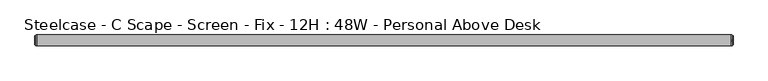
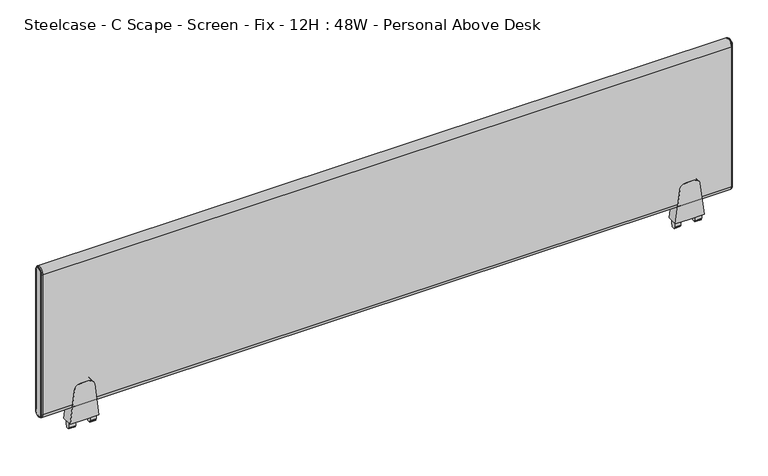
"""IFC4 building model written with IfcOpenShell, lengths in millimetres: furniture geometry, Steelcase - C Scape - Screen - Fix - 12H : 48W - Personal Above Desk."""

from ifc_helpers import new_model, si_unit, point, frame, frame_2d, origin, place, context, project, spatial, polyline, circle_curve, ellipse_curve, trimmed, segment, composite_curve, outline, extrude, source, transform, mapped, element, save
from ifc_brep_helpers import plane_surface, cylinder_surface, revolved_surface, advanced_brep


def steelcase_c_scape_screen_fix_12h_48w_personal_above_desk_ef8bbe0f(model_context):
    return source(origin(), model_context, "Body", "SolidModel", [
        extrude(outline(composite_curve([segment(polyline([(729.653112, 101.4730434), (789.9782421, 94.0661495)]), True, "CONTINUOUS"), segment(trimmed(circle_curve(frame_2d((788.6563718, 83.300233)), 10.8467645), [point((789.9782421, 94.0661495))], [point((799.5031362, 83.300233))], False, "CARTESIAN"), True, "CONTINUOUS"), segment(polyline([(799.5031362, 83.300233), (799.5031362, 76.2001674), (799.5031362, 69.1001018)]), True, "CONTINUOUS"), segment(trimmed(circle_curve(frame_2d((788.6563718, 69.1001018)), 10.8467645), [point((799.5031362, 69.1001018))], [point((789.9782421, 58.3341853))], False, "CARTESIAN"), True, "CONTINUOUS"), segment(polyline([(789.9782421, 58.3341853), (729.653112, 50.9272915), (729.653112, 76.2001674), (729.653112, 101.4730434)]), True, "CONTINUOUS")], self_intersect=False)), frame((0.0, -9.525, 0.0), z_axis=(0.0, 1.0, 0.0), x_axis=(0.0, 0.0, 1.0)), (0.0, 0.0, 1.0), 19.05),
        extrude(outline(polyline([(4.5465975, 729.653112), (4.5465975, 719.7471033), (4.0139265, 718.8606748), (2.9972008, 718.8606748), (2.9972008, 716.6254188), (0.0, 716.534), (-2.9972008, 716.6254188), (-2.9972008, 718.8606748), (-4.0139265, 718.8606748), (-4.5465975, 719.7471033), (-4.5465975, 729.653112), (0.0, 729.653112), (4.5465975, 729.653112)])), frame((88.9267162, 0.0, 0.0), z_axis=(1.0, 0.0, 0.0), x_axis=(0.0, 1.0, 0.0)), (0.0, 0.0, 1.0), 10.7813187),
        extrude(outline(polyline([(4.5465975, 729.653112), (4.5465975, 719.7471033), (4.0139265, 718.8606748), (2.9972008, 718.8606748), (2.9972008, 716.6254188), (0.0, 716.534), (-2.9972008, 716.6254188), (-2.9972008, 718.8606748), (-4.0139265, 718.8606748), (-4.5465975, 719.7471033), (-4.5465975, 729.653112), (0.0, 729.653112), (4.5465975, 729.653112)])), frame((52.6923, 0.0, 0.0), z_axis=(1.0, 0.0, 0.0), x_axis=(0.0, 1.0, 0.0)), (0.0, 0.0, 1.0), 10.7813187),
        extrude(outline(composite_curve([segment(polyline([(729.653112, 1167.5107132), (789.9782421, 1160.1038193)]), True, "CONTINUOUS"), segment(trimmed(circle_curve(frame_2d((788.6563718, 1149.3379028)), 10.8467645), [point((789.9782421, 1160.1038193))], [point((799.5031362, 1149.3379028))], False, "CARTESIAN"), True, "CONTINUOUS"), segment(polyline([(799.5031362, 1149.3379028), (799.5031362, 1142.2378372), (799.5031362, 1135.1377716)]), True, "CONTINUOUS"), segment(trimmed(circle_curve(frame_2d((788.6563718, 1135.1377716)), 10.8467645), [point((799.5031362, 1135.1377716))], [point((789.9782421, 1124.3718551))], False, "CARTESIAN"), True, "CONTINUOUS"), segment(polyline([(789.9782421, 1124.3718551), (729.653112, 1116.9649612), (729.653112, 1142.2378372), (729.653112, 1167.5107132)]), True, "CONTINUOUS")], self_intersect=False)), frame((0.0, -9.525, 0.0), z_axis=(0.0, 1.0, 0.0), x_axis=(0.0, 0.0, 1.0)), (0.0, 0.0, 1.0), 19.05),
        extrude(outline(polyline([(4.5465975, 729.653112), (4.5465975, 719.7471033), (4.0139265, 718.8606748), (2.9972008, 718.8606748), (2.9972008, 716.6254188), (0.0, 716.534), (-2.9972008, 716.6254188), (-2.9972008, 718.8606748), (-4.0139265, 718.8606748), (-4.5465975, 719.7471033), (-4.5465975, 729.653112), (0.0, 729.653112), (4.5465975, 729.653112)])), frame((1154.964386, 0.0, 0.0), z_axis=(1.0, 0.0, 0.0), x_axis=(0.0, 1.0, 0.0)), (0.0, 0.0, 1.0), 10.7813187),
        extrude(outline(polyline([(4.5465975, 729.653112), (4.5465975, 719.7471033), (4.0139265, 718.8606748), (2.9972008, 718.8606748), (2.9972008, 716.6254188), (0.0, 716.534), (-2.9972008, 716.6254188), (-2.9972008, 718.8606748), (-4.0139265, 718.8606748), (-4.5465975, 719.7471033), (-4.5465975, 729.653112), (0.0, 729.653112), (4.5465975, 729.653112)])), frame((1118.7299698, 0.0, 0.0), z_axis=(1.0, 0.0, 0.0), x_axis=(0.0, 1.0, 0.0)), (0.0, 0.0, 1.0), 10.7813187),
        advanced_brep(
        [(1215.6486613, -9.525, 1025.017), (1215.6486613, 9.525, 1025.017), (1215.6486613, 9.525, 764.667), (1215.6486613, -9.525, 764.667), (1218.4426613, 7.4929583, 1025.017), (1218.4426613, -7.4929583, 1025.017), (1218.4426613, -7.4929583, 764.667), (1218.4426613, 7.4929583, 764.667), (1217.9346545, -8.0009651, 1025.017), (1217.9346545, 8.0009651, 1025.017), (1216.6646613, 8.0009651, 1025.017), (1216.6646613, -8.0009651, 1025.017), (1216.6646613, -8.8204932, 1025.017), (1216.6646613, 8.8204932, 1025.017), (1216.6646613, -8.0009651, 764.667), (1217.9346545, -8.0009651, 764.667), (1216.6646613, -8.8204932, 764.667), (1216.6646613, 8.0009651, 764.667), (1217.9346545, 8.0009651, 764.667), (1216.6646613, 8.8204932, 764.667)],
        [
            (0, 1, circle_curve(frame((1215.6486613, 0.0, 1025.017), z_axis=(-1.0, 0.0, 0.0), x_axis=(0.0, 1.0, 0.0)), 9.525)),
            (1, 2),
            (2, 3, circle_curve(frame((1215.6486613, 0.0, 764.667), z_axis=(-1.0, 0.0, 0.0), x_axis=(0.0, -1.0, 0.0)), 9.525)),
            (3, 0),
            (4, 5, circle_curve(frame((1218.4426613, 0.0, 1025.017), z_axis=(1.0, 0.0, 0.0), x_axis=(0.0, 1.0, 0.0)), 7.4929583)),
            (5, 6),
            (6, 7, circle_curve(frame((1218.4426613, 0.0, 764.667), z_axis=(1.0, 0.0, 0.0), x_axis=(0.0, -1.0, 0.0)), 7.4929583)),
            (7, 4),
            (8, 9, circle_curve(frame((1217.9346545, 0.0, 1025.017), z_axis=(-1.0, 0.0, 0.0), x_axis=(0.0, 1.0, 0.0)), 8.0009651)),
            (9, 10),
            (10, 11, circle_curve(frame((1216.6646613, 0.0, 1025.017), z_axis=(1.0, 0.0, 0.0), x_axis=(0.0, 1.0, 0.0)), 8.0009651)),
            (11, 8),
            (8, 5, circle_curve(frame((1217.9346545, -7.4929583, 1025.017), z_axis=(0.0, 0.0, 1.0), x_axis=(0.0, -1.0, 0.0)), 0.5080068)),
            (4, 9, circle_curve(frame((1217.9346545, 7.4929583, 1025.017), z_axis=(0.0, 0.0, 1.0), x_axis=(0.0, 1.0, 0.0)), 0.5080068)),
            (12, 13, circle_curve(frame((1216.6646613, 0.0, 1025.017), z_axis=(-1.0, 0.0, 0.0), x_axis=(0.0, 1.0, 0.0)), 8.8204932)),
            (13, 1, circle_curve(frame((1215.5806211, 8.3420139, 1025.017), z_axis=(0.0, 0.0, 1.0), x_axis=(0.0, 1.0, 0.0)), 1.1849411)),
            (0, 12, circle_curve(frame((1215.5806211, -8.3420139, 1025.017), z_axis=(0.0, 0.0, 1.0), x_axis=(0.0, -1.0, 0.0)), 1.1849411)),
            (11, 14),
            (14, 15),
            (15, 8),
            (15, 6, circle_curve(frame((1217.9346545, -7.4929583, 764.667), z_axis=(0.0, 0.0, 1.0), x_axis=(0.0, -1.0, 0.0)), 0.5080068)),
            (3, 16, circle_curve(frame((1215.5806211, -8.3420139, 764.667), z_axis=(0.0, 0.0, 1.0), x_axis=(0.0, -1.0, 0.0)), 1.1849411)),
            (16, 12),
            (14, 17, circle_curve(frame((1216.6646613, 0.0, 764.667), z_axis=(1.0, 0.0, 0.0), x_axis=(0.0, -1.0, 0.0)), 8.0009651)),
            (17, 18),
            (18, 15, circle_curve(frame((1217.9346545, 0.0, 764.667), z_axis=(-1.0, 0.0, 0.0), x_axis=(0.0, -1.0, 0.0)), 8.0009651)),
            (18, 7, circle_curve(frame((1217.9346545, 7.4929583, 764.667), z_axis=(0.0, 0.0, -1.0), x_axis=(0.0, 1.0, 0.0)), 0.5080068)),
            (2, 19, circle_curve(frame((1215.5806211, 8.3420139, 764.667), z_axis=(0.0, 0.0, -1.0), x_axis=(0.0, 1.0, 0.0)), 1.1849411)),
            (19, 16, circle_curve(frame((1216.6646613, 0.0, 764.667), z_axis=(-1.0, 0.0, 0.0), x_axis=(0.0, -1.0, 0.0)), 8.8204932)),
            (9, 18),
            (17, 10),
            (13, 19),
        ],
        [
            plane_surface(frame((1215.6486613, -6.3509705, 1025.017), z_axis=(-1.0, 0.0, 0.0), x_axis=(0.0, 0.0, 1.0))),
            plane_surface(frame((1218.4426613, -6.3509705, 1025.017), z_axis=(1.0, 0.0, 0.0), x_axis=(0.0, 0.0, -1.0))),
            cylinder_surface(frame((1215.6486613, 0.0, 1025.017), z_axis=(1.0, 0.0, 0.0), x_axis=(0.0, 1.0, 0.0)), 8.0009651),
            revolved_surface(trimmed(ellipse_curve(frame((1217.9346545, 7.4929583, 1025.017), z_axis=(0.0, 0.0, -1.0), x_axis=(0.0, 1.0, 0.0)), 0.5080068, 0.5080068), [point((1217.9346545, 8.0009651, 1025.017))], [point((1218.4426613, 7.4929583, 1025.017))], True, "CARTESIAN"), (1215.6486613, 0.0, 1025.017), (1.0, 0.0, 0.0)),
            revolved_surface(trimmed(ellipse_curve(frame((1215.5806211, 8.3420139, 1025.017), z_axis=(0.0, 0.0, -1.0), x_axis=(0.0, 1.0, 0.0)), 1.1849411, 1.1849411), [point((1215.6486613, 9.525, 1025.017))], [point((1216.6646613, 8.8204932, 1025.017))], True, "CARTESIAN"), (1215.6486613, 0.0, 1025.017), (1.0, 0.0, 0.0)),
            plane_surface(frame((1216.6646613, -8.0009651, 1025.017), z_axis=(0.0, -1.0, 0.0), x_axis=(0.0, 0.0, -1.0))),
            cylinder_surface(frame((1217.9346545, -7.4929583, 1025.017), z_axis=(0.0, 0.0, 1.0), x_axis=(0.0, -1.0, 0.0)), 0.5080068),
            cylinder_surface(frame((1215.5806211, -8.3420139, 1025.017), z_axis=(0.0, 0.0, 1.0), x_axis=(0.0, -1.0, 0.0)), 1.1849411),
            cylinder_surface(frame((1215.6486613, 0.0, 764.667), z_axis=(1.0, 0.0, 0.0), x_axis=(0.0, -1.0, 0.0)), 8.0009651),
            revolved_surface(trimmed(ellipse_curve(frame((1217.9346545, -7.4929583, 764.667), z_axis=(0.0, 0.0, 1.0), x_axis=(0.0, -1.0, 0.0)), 0.5080068, 0.5080068), [point((1217.9346545, -8.0009651, 764.667))], [point((1218.4426613, -7.4929583, 764.667))], True, "CARTESIAN"), (1215.6486613, 0.0, 764.667), (1.0, 0.0, 0.0)),
            revolved_surface(trimmed(ellipse_curve(frame((1215.5806211, -8.3420139, 764.667), z_axis=(0.0, 0.0, 1.0), x_axis=(0.0, -1.0, 0.0)), 1.1849411, 1.1849411), [point((1215.6486613, -9.525, 764.667))], [point((1216.6646613, -8.8204932, 764.667))], True, "CARTESIAN"), (1215.6486613, 0.0, 764.667), (1.0, 0.0, 0.0)),
            plane_surface(frame((1216.6646613, 8.0009651, 764.667), z_axis=(0.0, 1.0, 0.0), x_axis=(0.0, 0.0, 1.0))),
            cylinder_surface(frame((1217.9346545, 7.4929583, 764.667), z_axis=(0.0, 0.0, -1.0), x_axis=(0.0, 1.0, 0.0)), 0.5080068),
            cylinder_surface(frame((1215.5806211, 8.3420139, 764.667), z_axis=(0.0, 0.0, -1.0), x_axis=(0.0, 1.0, 0.0)), 1.1849411),
            plane_surface(frame((1216.6646613, 8.8204932, 764.667), z_axis=(1.0, 0.0, 0.0), x_axis=(0.0, 0.0, 1.0))),
        ],
        [
            (0, [[1, 2, 3, 4]]),
            (1, [[5, 6, 7, 8]]),
            (2, [[9, 10, 11, 12]]),
            (3, [[-9, 13, -5, 14]]),
            (4, [[15, 16, -1, 17]]),
            (5, [[-12, 18, 19, 20]]),
            (6, [[-13, -20, 21, -6]]),
            (7, [[-17, -4, 22, 23]]),
            (8, [[-19, 24, 25, 26]]),
            (9, [[-21, -26, 27, -7]]),
            (10, [[-22, -3, 28, 29]]),
            (11, [[-10, 30, -25, 31]]),
            (12, [[-14, -8, -27, -30]]),
            (13, [[-16, 32, -28, -2]]),
            (14, [[-15, -23, -29, -32], [-11, -31, -24, -18]]),
        ],
    ),
        advanced_brep(
        [(2.7940155, 9.525, 1025.017), (2.7940155, -9.525, 1025.017), (2.7940155, -9.525, 764.667), (2.7940155, 9.525, 764.667), (0.0, -7.4929583, 1025.017), (0.0, 7.4929583, 1025.017), (0.0, 7.4929583, 764.667), (0.0, -7.4929583, 764.667), (1.778, 8.8204932, 1025.017), (1.778, -8.8204932, 1025.017), (0.5080068, -8.0009651, 1025.017), (0.5080068, 8.0009651, 1025.017), (1.778, -8.0009651, 1025.017), (1.778, 8.0009651, 1025.017), (1.778, -8.8204932, 764.667), (0.5080068, -8.0009651, 764.667), (1.778, -8.0009651, 764.667), (1.778, 8.8204932, 764.667), (0.5080068, 8.0009651, 764.667), (1.778, 8.0009651, 764.667)],
        [
            (0, 1, circle_curve(frame((2.7940155, 0.0, 1025.017), z_axis=(1.0, 0.0, 0.0), x_axis=(0.0, 1.0, 0.0)), 9.525)),
            (1, 2),
            (2, 3, circle_curve(frame((2.7940155, 0.0, 764.667), z_axis=(1.0, 0.0, 0.0), x_axis=(0.0, -1.0, 0.0)), 9.525)),
            (3, 0),
            (4, 5, circle_curve(frame((0.0, 0.0, 1025.017), z_axis=(-1.0, 0.0, 0.0), x_axis=(0.0, 1.0, 0.0)), 7.4929583)),
            (5, 6),
            (6, 7, circle_curve(frame((0.0, 0.0, 764.667), z_axis=(-1.0, 0.0, 0.0), x_axis=(0.0, -1.0, 0.0)), 7.4929583)),
            (7, 4),
            (0, 8, circle_curve(frame((2.8620402, 8.3420139, 1025.017), z_axis=(0.0, 0.0, 1.0), x_axis=(0.0, -1.0, 0.0)), 1.1849411)),
            (8, 9, circle_curve(frame((1.778, 0.0, 1025.017), z_axis=(1.0, 0.0, 0.0), x_axis=(0.0, 1.0, 0.0)), 8.8204932)),
            (9, 1, circle_curve(frame((2.8620402, -8.3420139, 1025.017), z_axis=(0.0, 0.0, 1.0), x_axis=(0.0, 1.0, 0.0)), 1.1849411)),
            (10, 11, circle_curve(frame((0.5080068, 0.0, 1025.017), z_axis=(-1.0, 0.0, 0.0), x_axis=(0.0, 1.0, 0.0)), 8.0009651)),
            (11, 5, circle_curve(frame((0.5080068, 7.4929583, 1025.017), z_axis=(0.0, 0.0, 1.0), x_axis=(0.0, -1.0, 0.0)), 0.5080068)),
            (4, 10, circle_curve(frame((0.5080068, -7.4929583, 1025.017), z_axis=(0.0, 0.0, 1.0), x_axis=(0.0, 1.0, 0.0)), 0.5080068)),
            (10, 12),
            (12, 13, circle_curve(frame((1.778, 0.0, 1025.017), z_axis=(-1.0, 0.0, 0.0), x_axis=(0.0, 1.0, 0.0)), 8.0009651)),
            (13, 11),
            (9, 14),
            (14, 2, circle_curve(frame((2.8620402, -8.3420139, 764.667), z_axis=(0.0, 0.0, 1.0), x_axis=(0.0, 1.0, 0.0)), 1.1849411)),
            (7, 15, circle_curve(frame((0.5080068, -7.4929583, 764.667), z_axis=(0.0, 0.0, 1.0), x_axis=(0.0, 1.0, 0.0)), 0.5080068)),
            (15, 10),
            (15, 16),
            (16, 12),
            (14, 17, circle_curve(frame((1.778, 0.0, 764.667), z_axis=(1.0, 0.0, 0.0), x_axis=(0.0, -1.0, 0.0)), 8.8204932)),
            (17, 3, circle_curve(frame((2.8620402, 8.3420139, 764.667), z_axis=(0.0, 0.0, -1.0), x_axis=(0.0, -1.0, 0.0)), 1.1849411)),
            (6, 18, circle_curve(frame((0.5080068, 7.4929583, 764.667), z_axis=(0.0, 0.0, -1.0), x_axis=(0.0, -1.0, 0.0)), 0.5080068)),
            (18, 15, circle_curve(frame((0.5080068, 0.0, 764.667), z_axis=(-1.0, 0.0, 0.0), x_axis=(0.0, -1.0, 0.0)), 8.0009651)),
            (18, 19),
            (19, 16, circle_curve(frame((1.778, 0.0, 764.667), z_axis=(-1.0, 0.0, 0.0), x_axis=(0.0, -1.0, 0.0)), 8.0009651)),
            (8, 17),
            (19, 13),
            (11, 18),
        ],
        [
            plane_surface(frame((2.7940155, -6.3509705, 1025.017), z_axis=(1.0, 0.0, 0.0), x_axis=(0.0, 0.0, -1.0))),
            plane_surface(frame((0.0, -6.3509705, 1025.017), z_axis=(-1.0, 0.0, 0.0), x_axis=(0.0, 0.0, 1.0))),
            revolved_surface(trimmed(ellipse_curve(frame((2.8620402, 8.3420139, 1025.017), z_axis=(0.0, 0.0, -1.0), x_axis=(0.0, -1.0, 0.0)), 1.1849411, 1.1849411), [point((1.778, 8.8204932, 1025.017))], [point((2.794, 9.525, 1025.017))], True, "CARTESIAN"), (2.794, 0.0, 1025.017), (1.0, 0.0, 0.0)),
            revolved_surface(trimmed(ellipse_curve(frame((0.5080068, 7.4929583, 1025.017), z_axis=(0.0, 0.0, -1.0), x_axis=(0.0, -1.0, 0.0)), 0.5080068, 0.5080068), [point((0.0, 7.4929583, 1025.017))], [point((0.5080068, 8.0009651, 1025.017))], True, "CARTESIAN"), (2.794, 0.0, 1025.017), (1.0, 0.0, 0.0)),
            cylinder_surface(frame((2.794, 0.0, 1025.017), z_axis=(1.0, 0.0, 0.0), x_axis=(0.0, 1.0, 0.0)), 8.0009651),
            cylinder_surface(frame((2.8620402, -8.3420139, 1025.017), z_axis=(0.0, 0.0, 1.0), x_axis=(0.0, 1.0, 0.0)), 1.1849411),
            cylinder_surface(frame((0.5080068, -7.4929583, 1025.017), z_axis=(0.0, 0.0, 1.0), x_axis=(0.0, 1.0, 0.0)), 0.5080068),
            plane_surface(frame((0.5080068, -8.0009651, 1025.017), z_axis=(0.0, -1.0, 0.0), x_axis=(0.0, 0.0, -1.0))),
            revolved_surface(trimmed(ellipse_curve(frame((2.8620402, -8.3420139, 764.667), z_axis=(0.0, 0.0, 1.0), x_axis=(0.0, 1.0, 0.0)), 1.1849411, 1.1849411), [point((1.778, -8.8204932, 764.667))], [point((2.794, -9.525, 764.667))], True, "CARTESIAN"), (2.794, 0.0, 764.667), (1.0, 0.0, 0.0)),
            revolved_surface(trimmed(ellipse_curve(frame((0.5080068, -7.4929583, 764.667), z_axis=(0.0, 0.0, 1.0), x_axis=(0.0, 1.0, 0.0)), 0.5080068, 0.5080068), [point((0.0, -7.4929583, 764.667))], [point((0.5080068, -8.0009651, 764.667))], True, "CARTESIAN"), (2.794, 0.0, 764.667), (1.0, 0.0, 0.0)),
            cylinder_surface(frame((2.794, 0.0, 764.667), z_axis=(1.0, 0.0, 0.0), x_axis=(0.0, -1.0, 0.0)), 8.0009651),
            plane_surface(frame((1.778, 8.0009651, 764.667), z_axis=(-1.0, 0.0, 0.0), x_axis=(0.0, 0.0, 1.0))),
            cylinder_surface(frame((2.8620402, 8.3420139, 764.667), z_axis=(0.0, 0.0, -1.0), x_axis=(0.0, -1.0, 0.0)), 1.1849411),
            cylinder_surface(frame((0.5080068, 7.4929583, 764.667), z_axis=(0.0, 0.0, -1.0), x_axis=(0.0, -1.0, 0.0)), 0.5080068),
            plane_surface(frame((0.5080068, 8.0009651, 764.667), z_axis=(0.0, 1.0, 0.0), x_axis=(0.0, 0.0, 1.0))),
        ],
        [
            (0, [[1, 2, 3, 4]]),
            (1, [[5, 6, 7, 8]]),
            (2, [[-1, 9, 10, 11]]),
            (3, [[12, 13, -5, 14]]),
            (4, [[-12, 15, 16, 17]]),
            (5, [[-11, 18, 19, -2]]),
            (6, [[-14, -8, 20, 21]]),
            (7, [[-15, -21, 22, 23]]),
            (8, [[-19, 24, 25, -3]]),
            (9, [[-20, -7, 26, 27]]),
            (10, [[-22, -27, 28, 29]]),
            (11, [[-10, 30, -24, -18], [-16, -23, -29, 31]]),
            (12, [[-9, -4, -25, -30]]),
            (13, [[-13, 32, -26, -6]]),
            (14, [[-17, -31, -28, -32]]),
        ],
    ),
        extrude(outline(composite_curve([segment(trimmed(circle_curve(frame_2d((0.0, 1025.017)), 9.525), [point((-9.525, 1025.017))], [point((9.525, 1025.017))], False, "CARTESIAN"), True, "CONTINUOUS"), segment(polyline([(9.525, 1025.017), (9.525, 764.667)]), True, "CONTINUOUS"), segment(trimmed(circle_curve(frame_2d((0.0, 764.667)), 9.525), [point((9.525, 764.667))], [point((-9.525, 764.667))], False, "CARTESIAN"), True, "CONTINUOUS"), segment(polyline([(-9.525, 764.667), (-9.525, 1025.017)]), True, "CONTINUOUS")], self_intersect=False)), frame((2.794, 0.0, 0.0), z_axis=(1.0, 0.0, 0.0), x_axis=(0.0, 1.0, 0.0)), (0.0, 0.0, 1.0), 1212.8546613),
    ])


if __name__ == "__main__":
    model = new_model("IFC4")
    model_context = context("Model", 3, world=origin())
    ifc_project = project(units=[si_unit("LENGTHUNIT", "METRE", prefix="MILLI")], contexts=[model_context])
    site = spatial("IfcSite", under=ifc_project)
    building = spatial("IfcBuilding", under=site)
    placement = place(None, origin())
    steelcase_c_scape_screen_fix_12h_48w_personal_above_desk_shape = steelcase_c_scape_screen_fix_12h_48w_personal_above_desk_ef8bbe0f(model_context)
    element("IfcFurniture", 1, ObjectType="Steelcase - C Scape - Screen - Fix - 12H : 48W - Personal Above Desk", at=placement, inside=building, context=model_context, shape_type="MappedRepresentation", body=[
        mapped(steelcase_c_scape_screen_fix_12h_48w_personal_above_desk_shape, transform((0.0, 0.0, 0.0), x_axis=(1.0, 0.0, 0.0), y_axis=(0.0, 1.0, 0.0), z_axis=(0.0, 0.0, 1.0))),
    ])
    save(model, "model.ifc")
